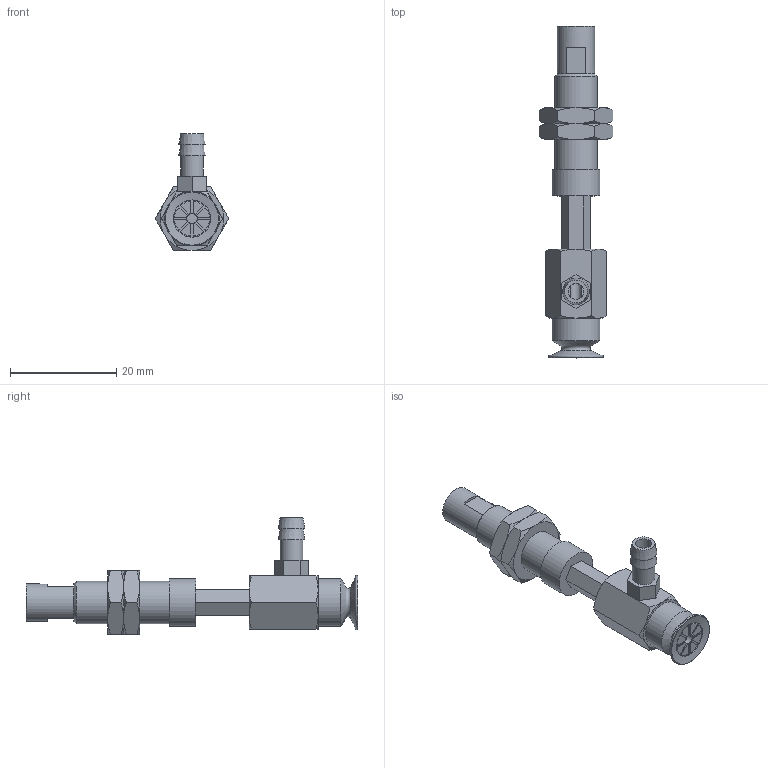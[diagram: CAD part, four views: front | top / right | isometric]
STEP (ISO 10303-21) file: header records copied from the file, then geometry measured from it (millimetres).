
FILE_DESCRIPTION(('STEP AP203'),'1');
FILE_NAME('-T.stp','2025-03-13T02:58:22',(' '),(' '),'Spatial InterOp 3D',' ',' ');
FILE_SCHEMA(('CONFIG_CONTROL_DESIGN'));
Length unit declared in the file: millimetre
Products named in the file (7): BNABPAYH-10B-10-※-T; NAPATH-10A-10--M; NAPATH-10A-10--F; Nut-10A-S; CONNECTOR-10A-10-PA; CONNECTOR-10A-3-T-PA; BPAG-10B-※
Assembly tree (7 placements, depth 2):
  BNABPAYH-10B-10-※-T
    NAPATH-10A-10--M
    NAPATH-10A-10--F
    Nut-10A-S  x2
    CONNECTOR-10A-10-PA
    CONNECTOR-10A-3-T-PA
    BPAG-10B-※
Bounding box: 13.86 x 62.5 x 22 mm (x, y, z)
Volume: 3698.3 mm3; surface area: 4688.8 mm2
Topology: 7 solids, 7 shells, 191 faces, 435 edges, 271 vertices
Faces by surface type: plane 99, cone 54, cylinder 27, torus 11
Full cylindrical faces by diameter (mm): 2 x2, 3 x1, 4 x2, 4.134 x2, 4.3 x1, 5 x2, 6 x2, 7 x2, 7.188 x2, 8 x1, 9 x2
Entity records: 5044 total; most frequent: CARTESIAN_POINT 1094, DIRECTION 756, ORIENTED_EDGE 670, EDGE_CURVE 335, AXIS2_PLACEMENT_3D 299, EDGE_LOOP 236, VERTEX_POINT 235, FACE_OUTER_BOUND 197
